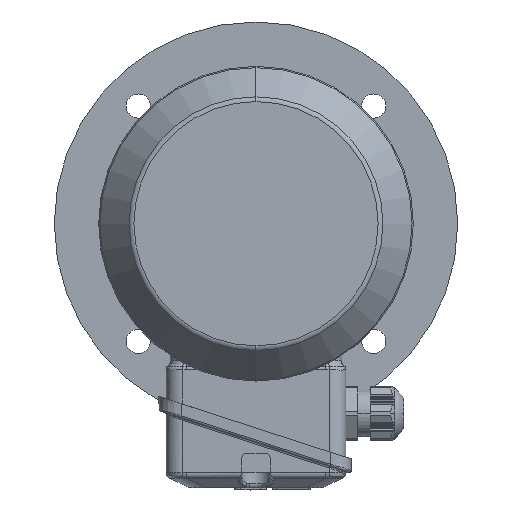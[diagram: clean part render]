
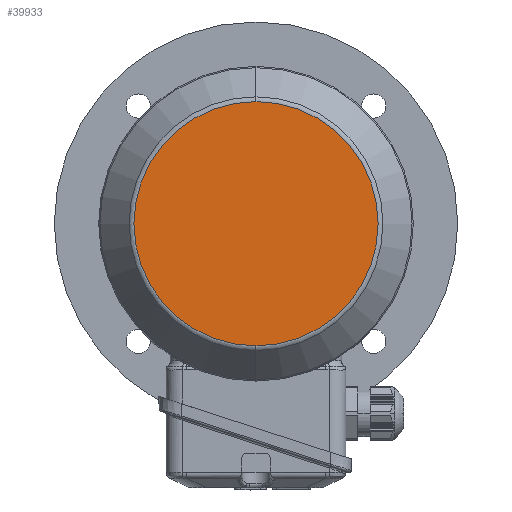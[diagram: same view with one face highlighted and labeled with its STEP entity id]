
A CAD part, left-side view. The second image highlights one B-rep face of the part: STEP entity #39933.
In plain terms, the highlighted planar face has unit normal (-1, 0, 0).
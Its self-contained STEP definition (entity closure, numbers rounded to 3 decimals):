
#138 = AXIS2_PLACEMENT_3D ( 'NONE', #39108, #42225, #25506 ) ;
#1122 = DIRECTION ( 'NONE',  ( 1., 0., 0. ) ) ;
#1972 = FACE_OUTER_BOUND ( 'NONE', #23873, .T. ) ;
#4043 = DIRECTION ( 'NONE',  ( 0., 0., -1. ) ) ;
#5443 = CARTESIAN_POINT ( 'NONE',  ( -144.9, 0., 60.537 ) ) ;
#8297 = DIRECTION ( 'NONE',  ( 0., 0., -1. ) ) ;
#10511 = CIRCLE ( 'NONE', #27817, 60.537 ) ;
#11382 = AXIS2_PLACEMENT_3D ( 'NONE', #41707, #1122, #4043 ) ;
#12938 = EDGE_CURVE ( 'NONE', #43344, #37275, #28962, .T. ) ;
#13011 = EDGE_CURVE ( 'NONE', #37275, #43344, #10511, .T. ) ;
#15328 = PLANE ( 'NONE',  #138 ) ;
#16700 = ORIENTED_EDGE ( 'NONE', *, *, #12938, .F. ) ;
#19803 = CARTESIAN_POINT ( 'NONE',  ( -144.9, 0., -60.537 ) ) ;
#21244 = ORIENTED_EDGE ( 'NONE', *, *, #13011, .F. ) ;
#23873 = EDGE_LOOP ( 'NONE', ( #16700, #21244 ) ) ;
#25506 = DIRECTION ( 'NONE',  ( 0., 1., 0. ) ) ;
#27817 = AXIS2_PLACEMENT_3D ( 'NONE', #28533, #41993, #8297 ) ;
#28533 = CARTESIAN_POINT ( 'NONE',  ( -144.9, 0., 0. ) ) ;
#28962 = CIRCLE ( 'NONE', #11382, 60.537 ) ;
#37275 = VERTEX_POINT ( 'NONE', #5443 ) ;
#39108 = CARTESIAN_POINT ( 'NONE',  ( -144.9, 0., -60.537 ) ) ;
#39933 = ADVANCED_FACE ( 'NONE', ( #1972 ), #15328, .T. ) ;
#41707 = CARTESIAN_POINT ( 'NONE',  ( -144.9, 0., 0. ) ) ;
#41993 = DIRECTION ( 'NONE',  ( 1., 0., 0. ) ) ;
#42225 = DIRECTION ( 'NONE',  ( -1., 0., 0. ) ) ;
#43344 = VERTEX_POINT ( 'NONE', #19803 ) ;
